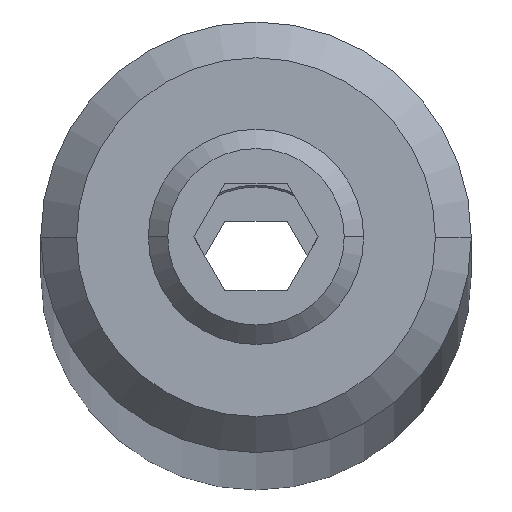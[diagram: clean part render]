
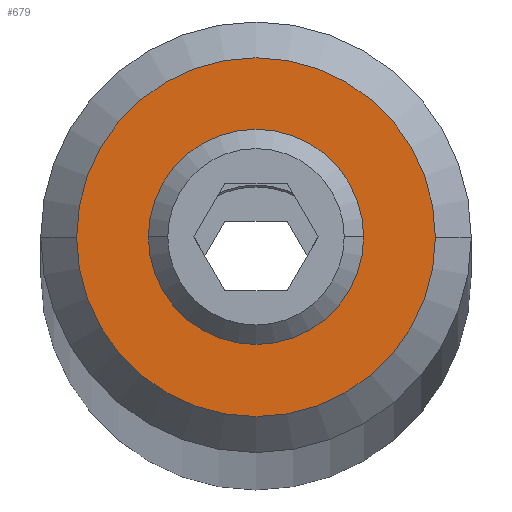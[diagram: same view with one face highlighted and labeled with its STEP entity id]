
A CAD part, top view. The second image highlights one B-rep face of the part: STEP entity #679.
In plain terms, the highlighted planar face has unit normal (0, 0, 1).
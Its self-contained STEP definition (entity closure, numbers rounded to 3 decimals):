
#49 = ORIENTED_EDGE ( 'NONE', *, *, #623, .T. ) ;
#55 = CARTESIAN_POINT ( 'NONE',  ( -1.25, 0., 150. ) ) ;
#114 = AXIS2_PLACEMENT_3D ( 'NONE', #737, #440, #896 ) ;
#118 = VERTEX_POINT ( 'NONE', #588 ) ;
#143 = CIRCLE ( 'NONE', #461, 1.25 ) ;
#173 = FACE_OUTER_BOUND ( 'NONE', #930, .T. ) ;
#225 = DIRECTION ( 'NONE',  ( 1., 0., 0. ) ) ;
#253 = DIRECTION ( 'NONE',  ( 0., 0., 1. ) ) ;
#263 = VERTEX_POINT ( 'NONE', #900 ) ;
#291 = CIRCLE ( 'NONE', #799, 2.5 ) ;
#356 = ORIENTED_EDGE ( 'NONE', *, *, #881, .F. ) ;
#368 = CARTESIAN_POINT ( 'NONE',  ( 1.25, 0., 150. ) ) ;
#373 = CARTESIAN_POINT ( 'NONE',  ( 0., 0., 150. ) ) ;
#395 = DIRECTION ( 'NONE',  ( 1., 0., 0. ) ) ;
#440 = DIRECTION ( 'NONE',  ( 0., 0., 1. ) ) ;
#456 = DIRECTION ( 'NONE',  ( 0., 0., 1. ) ) ;
#461 = AXIS2_PLACEMENT_3D ( 'NONE', #663, #584, #225 ) ;
#475 = CARTESIAN_POINT ( 'NONE',  ( 0., 0., 150. ) ) ;
#487 = VERTEX_POINT ( 'NONE', #368 ) ;
#533 = EDGE_LOOP ( 'NONE', ( #356, #853 ) ) ;
#543 = DIRECTION ( 'NONE',  ( 1., 0., 0. ) ) ;
#549 = ORIENTED_EDGE ( 'NONE', *, *, #820, .T. ) ;
#581 = EDGE_CURVE ( 'NONE', #844, #487, #143, .T. ) ;
#584 = DIRECTION ( 'NONE',  ( 0., 0., 1. ) ) ;
#588 = CARTESIAN_POINT ( 'NONE',  ( -2.5, 0., 150. ) ) ;
#623 = EDGE_CURVE ( 'NONE', #263, #118, #291, .T. ) ;
#662 = CIRCLE ( 'NONE', #818, 2.5 ) ;
#663 = CARTESIAN_POINT ( 'NONE',  ( 0., 0., 150. ) ) ;
#679 = ADVANCED_FACE ( 'NONE', ( #743, #173 ), #819, .T. ) ;
#680 = DIRECTION ( 'NONE',  ( 0., 0., 1. ) ) ;
#690 = AXIS2_PLACEMENT_3D ( 'NONE', #373, #680, #828 ) ;
#737 = CARTESIAN_POINT ( 'NONE',  ( 0., 0., 150. ) ) ;
#743 = FACE_BOUND ( 'NONE', #533, .T. ) ;
#755 = CARTESIAN_POINT ( 'NONE',  ( 0., 0., 150. ) ) ;
#799 = AXIS2_PLACEMENT_3D ( 'NONE', #755, #456, #395 ) ;
#818 = AXIS2_PLACEMENT_3D ( 'NONE', #475, #253, #543 ) ;
#819 = PLANE ( 'NONE',  #690 ) ;
#820 = EDGE_CURVE ( 'NONE', #118, #263, #662, .T. ) ;
#828 = DIRECTION ( 'NONE',  ( 1., 0., 0. ) ) ;
#844 = VERTEX_POINT ( 'NONE', #55 ) ;
#850 = CIRCLE ( 'NONE', #114, 1.25 ) ;
#853 = ORIENTED_EDGE ( 'NONE', *, *, #581, .F. ) ;
#881 = EDGE_CURVE ( 'NONE', #487, #844, #850, .T. ) ;
#896 = DIRECTION ( 'NONE',  ( 1., 0., 0. ) ) ;
#900 = CARTESIAN_POINT ( 'NONE',  ( 2.5, 0., 150. ) ) ;
#930 = EDGE_LOOP ( 'NONE', ( #549, #49 ) ) ;
